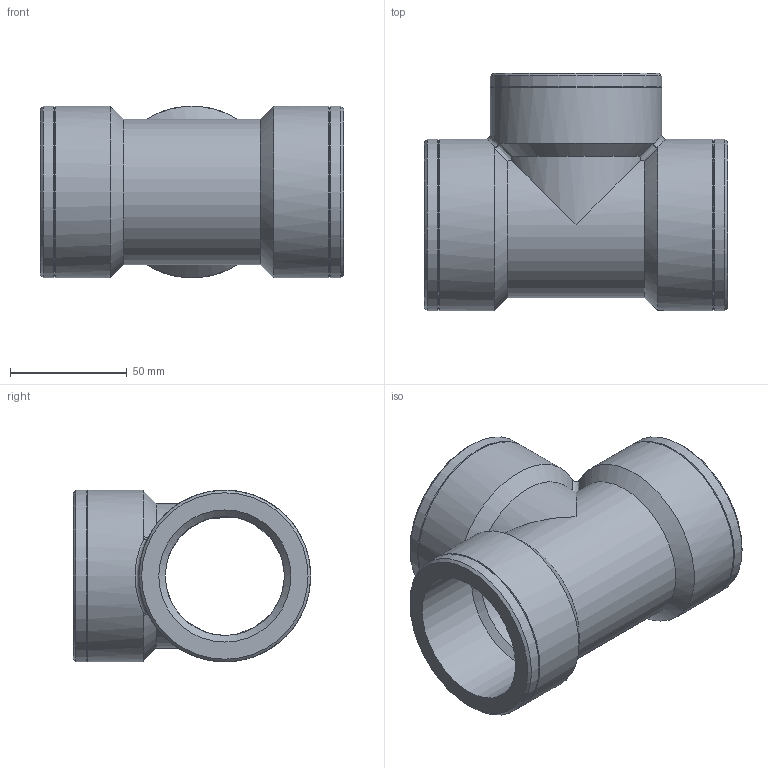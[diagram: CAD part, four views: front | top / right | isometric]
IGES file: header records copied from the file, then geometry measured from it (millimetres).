
Global section: file name: 050407020_0504070200A.ipt; native system: Autodesk Inventor 2015; preprocessor: unknown; author: KIM; date: 20170618.093207; units: millimetre
Bounding box: 130 x 101.83 x 73.65 mm (x, y, z)
Volume: 233010.4 mm3; surface area: 67917.9 mm2
Topology: 1 solids, 1 shells, 39 faces, 108 edges, 70 vertices
Faces by surface type: cone 13, cylinder 9, revolution 8, bspline 6, plane 3
Full cylindrical faces by diameter (mm): 73.653 x6
